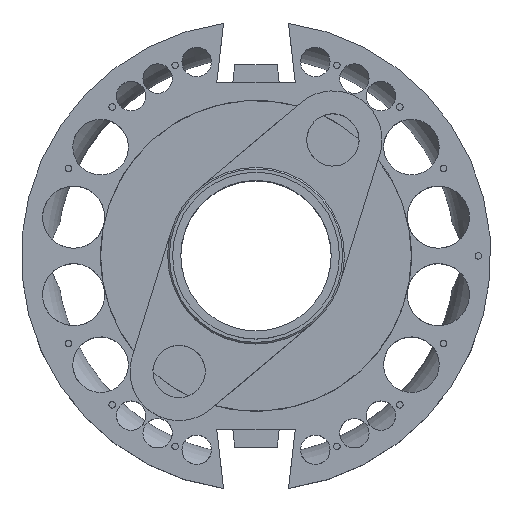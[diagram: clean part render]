
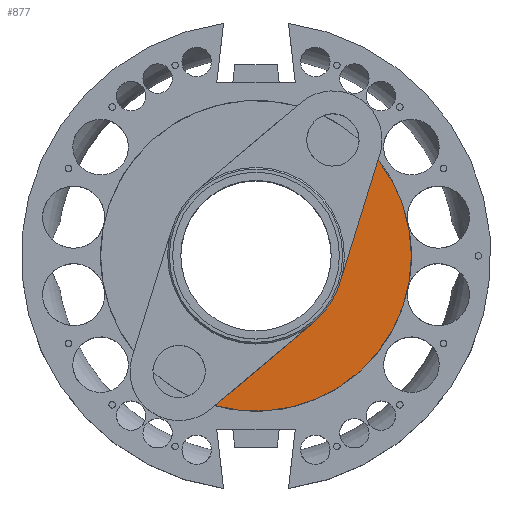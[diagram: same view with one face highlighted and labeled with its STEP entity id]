
A CAD part, top view. The second image highlights one B-rep face of the part: STEP entity #877.
In plain terms, the highlighted planar face has unit normal (0, 0, 1).
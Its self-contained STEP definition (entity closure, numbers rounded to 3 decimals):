
#877=ADVANCED_FACE('',(#2366),#2367,.T.);
#2366=FACE_OUTER_BOUND('',#4592,.T.);
#2367=PLANE('',#4593);
#4592=EDGE_LOOP('',(#7303,#7304,#7305,#7306,#7307));
#4593=AXIS2_PLACEMENT_3D('',#7308,#7309,#7310);
#7303=ORIENTED_EDGE('',*,*,#14227,.T.);
#7304=ORIENTED_EDGE('',*,*,#14228,.F.);
#7305=ORIENTED_EDGE('',*,*,#14229,.F.);
#7306=ORIENTED_EDGE('',*,*,#14230,.F.);
#7307=ORIENTED_EDGE('',*,*,#14231,.F.);
#7308=CARTESIAN_POINT('',(36.5,0.,59.1));
#7309=DIRECTION('',(0.,0.,1.0));
#7310=DIRECTION('',(-1.0,0.,0.));
#14227=EDGE_CURVE('',#17510,#17511,#17512,.T.);
#14228=EDGE_CURVE('',#17513,#17511,#17514,.T.);
#14229=EDGE_CURVE('',#17515,#17513,#17516,.T.);
#14230=EDGE_CURVE('',#17517,#17515,#17518,.T.);
#14231=EDGE_CURVE('',#17510,#17517,#17519,.T.);
#17510=VERTEX_POINT('',#22674);
#17511=VERTEX_POINT('',#22675);
#17512=LINE('',#22676,#22677);
#17513=VERTEX_POINT('',#22678);
#17514=CIRCLE('',#22679,27.0);
#17515=VERTEX_POINT('',#22680);
#17516=LINE('',#22681,#22682);
#17517=VERTEX_POINT('',#22683);
#17518=CIRCLE('',#22684,47.5);
#17519=CIRCLE('',#22685,47.5);
#22674=CARTESIAN_POINT('',(37.349,29.347,59.1));
#22675=CARTESIAN_POINT('',(25.792,-7.985,59.1));
#22676=CARTESIAN_POINT('',(37.849,30.962,59.1));
#22677=VECTOR('',#31476,1.0);
#22678=CARTESIAN_POINT('',(17.354,-20.684,59.1));
#22679=AXIS2_PLACEMENT_3D('',#31477,#31478,#31479);
#22680=CARTESIAN_POINT('',(-12.584,-45.803,59.1));
#22681=CARTESIAN_POINT('',(-13.879,-46.89,59.1));
#22682=VECTOR('',#31480,1.0);
#22683=CARTESIAN_POINT('',(47.5,0.,59.1));
#22684=AXIS2_PLACEMENT_3D('',#31481,#31482,#31483);
#22685=AXIS2_PLACEMENT_3D('',#31484,#31485,#31486);
#31476=DIRECTION('',(-0.296,-0.955,0.));
#31477=CARTESIAN_POINT('',(0.,0.,59.1));
#31478=DIRECTION('',(0.,0.,1.0));
#31479=DIRECTION('',(0.553,0.833,0.));
#31480=DIRECTION('',(0.766,0.643,0.));
#31481=CARTESIAN_POINT('',(0.0,0.,59.1));
#31482=DIRECTION('',(0.,0.,-1.0));
#31483=DIRECTION('',(1.0,0.,0.));
#31484=CARTESIAN_POINT('',(0.0,0.,59.1));
#31485=DIRECTION('',(0.,0.,-1.0));
#31486=DIRECTION('',(1.0,0.,0.));
